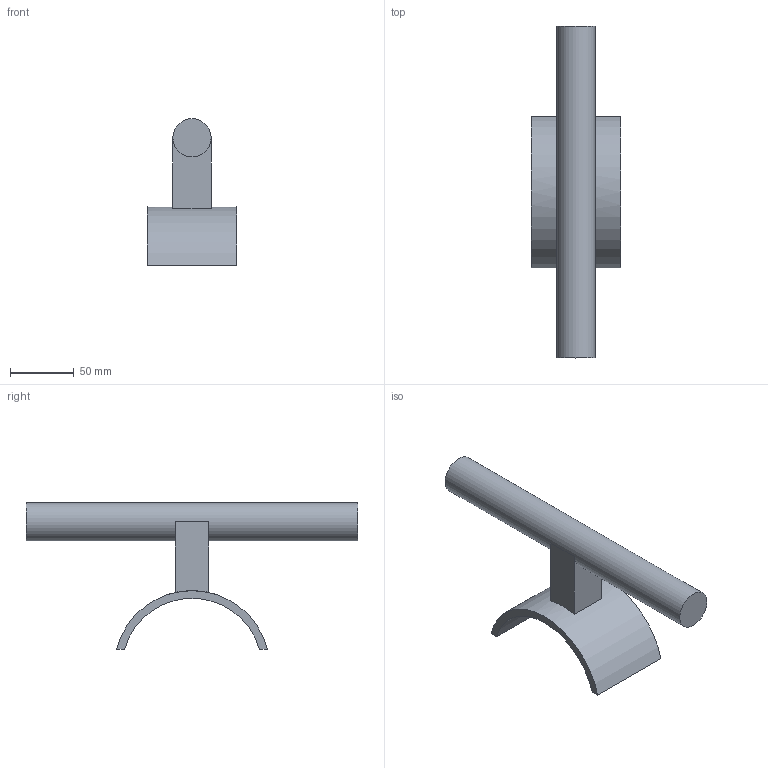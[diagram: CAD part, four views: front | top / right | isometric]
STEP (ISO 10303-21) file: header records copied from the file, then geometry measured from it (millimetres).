
FILE_DESCRIPTION(('Open CASCADE Model'),'2;1');
FILE_NAME('Open CASCADE Shape Model','2026-11-23T20:25:51',('Author'),( 'Open CASCADE'),'Open CASCADE STEP processor 7.9','Open CASCADE 7.9' ,'Unknown');
FILE_SCHEMA(('AUTOMOTIVE_DESIGN { 1 0 10303 214 1 1 1 1 }'));
Length unit declared in the file: millimetre
Products named in the file (1): Open CASCADE STEP translator 7.9 28
Bounding box: 70 x 260 x 115 mm (x, y, z)
Volume: 280860.6 mm3; surface area: 53309.4 mm2
Topology: 1 solids, 1 shells, 13 faces, 28 edges, 18 vertices
Faces by surface type: plane 10, cylinder 3
Full cylindrical faces by diameter (mm): 30 x1
Entity records: 721 total; most frequent: CARTESIAN_POINT 161, DIRECTION 97, ORIENTED_EDGE 56, PCURVE 56, DEFINITIONAL_REPRESENTATION 56, LINE 43, VECTOR 43, EDGE_CURVE 28
